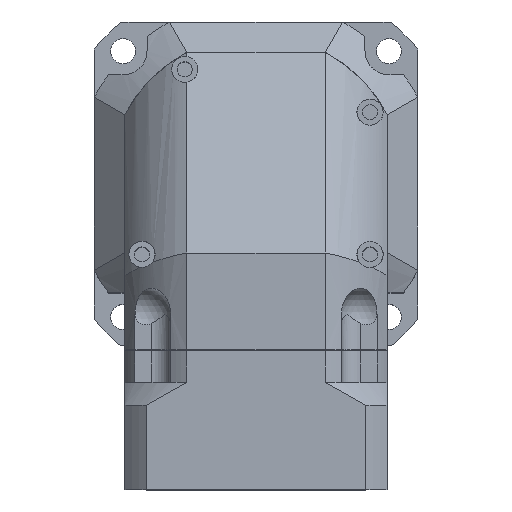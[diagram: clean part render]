
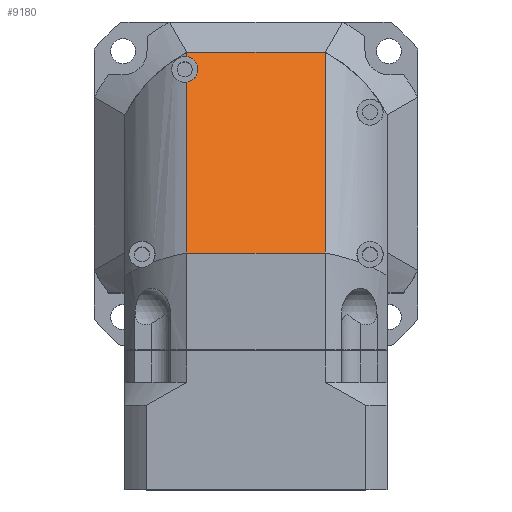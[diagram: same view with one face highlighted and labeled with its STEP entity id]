
A CAD part, top view. The second image highlights one B-rep face of the part: STEP entity #9180.
In plain terms, the highlighted planar face has unit normal (0, 0.643, 0.766) as drawn and (-0.766, -0.643, 0) by its records, which use the part's own axes.
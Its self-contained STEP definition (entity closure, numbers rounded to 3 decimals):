
#4185=DIRECTION('',(0.,0.,-1.));
#4186=VECTOR('',#4185,60.622);
#4187=CARTESIAN_POINT('',(16.5,-57.5,30.311));
#4188=LINE('',#4187,#4186);
#4545=CARTESIAN_POINT('',(16.5,-57.5,30.311));
#5266=DIRECTION('',(0.,0.,1.));
#5267=VECTOR('',#5266,60.622);
#5268=CARTESIAN_POINT('',(-57.5,30.69,-30.311));
#5269=LINE('',#5268,#5267);
#5270=CARTESIAN_POINT('',(5.478,-44.365,30.311));
#5271=CARTESIAN_POINT('',(5.528,-44.424,29.96));
#5272=CARTESIAN_POINT('',(5.627,-44.542,29.542));
#5273=CARTESIAN_POINT('',(5.825,-44.778,28.895));
#5274=CARTESIAN_POINT('',(6.073,-45.073,28.335));
#5275=CARTESIAN_POINT('',(6.37,-45.428,27.807));
#5276=CARTESIAN_POINT('',(6.767,-45.9,27.243));
#5277=CARTESIAN_POINT('',(7.262,-46.491,26.708));
#5278=CARTESIAN_POINT('',(7.857,-47.2,26.241));
#5279=CARTESIAN_POINT('',(8.452,-47.908,25.905));
#5280=CARTESIAN_POINT('',(9.245,-48.854,25.601));
#5281=CARTESIAN_POINT('',(10.236,-50.035,25.458));
#5282=CARTESIAN_POINT('',(11.227,-51.216,25.601));
#5283=CARTESIAN_POINT('',(12.02,-52.161,25.905));
#5284=CARTESIAN_POINT('',(12.615,-52.87,26.241));
#5285=CARTESIAN_POINT('',(13.21,-53.579,26.708));
#5286=CARTESIAN_POINT('',(13.705,-54.169,27.243));
#5287=CARTESIAN_POINT('',(14.102,-54.642,27.807));
#5288=CARTESIAN_POINT('',(14.399,-54.996,28.335));
#5289=CARTESIAN_POINT('',(14.647,-55.292,28.895));
#5290=CARTESIAN_POINT('',(14.845,-55.528,29.542));
#5291=CARTESIAN_POINT('',(14.944,-55.646,29.96));
#5292=CARTESIAN_POINT('',(14.994,-55.705,30.311));
#5294=DIRECTION('',(0.643,-0.766,0.));
#5295=VECTOR('',#5294,2.343);
#5296=CARTESIAN_POINT('',(14.994,-55.705,30.311));
#5297=LINE('',#5296,#5295);
#5298=DIRECTION('',(-0.643,0.766,0.));
#5299=VECTOR('',#5298,115.124);
#5300=CARTESIAN_POINT('',(16.5,-57.5,-30.311));
#5301=LINE('',#5300,#5299);
#5302=DIRECTION('',(0.643,-0.766,0.));
#5303=VECTOR('',#5302,97.977);
#5304=CARTESIAN_POINT('',(-57.5,30.69,30.311));
#5305=LINE('',#5304,#5303);
#7566=VERTEX_POINT('',#5270);
#7567=VERTEX_POINT('',#5292);
#7608=VERTEX_POINT('',#4545);
#7613=CARTESIAN_POINT('',(16.5,-57.5,-30.311));
#7614=CARTESIAN_POINT('',(-57.5,30.69,-30.311));
#7615=VERTEX_POINT('',#7613);
#7616=VERTEX_POINT('',#7614);
#7617=CARTESIAN_POINT('',(-57.5,30.69,30.311));
#7618=VERTEX_POINT('',#7617);
#9163=CARTESIAN_POINT('',(16.5,-57.5,78.));
#9164=DIRECTION('',(0.766,0.643,0.));
#9165=DIRECTION('',(-0.643,0.766,0.));
#9166=AXIS2_PLACEMENT_3D('',#9163,#9164,#9165);
#9167=PLANE('',#9166);
#9169=ORIENTED_EDGE('',*,*,#9168,.T.);
#9171=ORIENTED_EDGE('',*,*,#9170,.T.);
#9172=ORIENTED_EDGE('',*,*,#7706,.T.);
#9174=ORIENTED_EDGE('',*,*,#9173,.T.);
#9175=ORIENTED_EDGE('',*,*,#9158,.T.);
#9177=ORIENTED_EDGE('',*,*,#9176,.T.);
#9178=EDGE_LOOP('',(#9169,#9171,#9172,#9174,#9175,#9177));
#9179=FACE_OUTER_BOUND('',#9178,.F.);
#9180=ADVANCED_FACE('',(#9179),#9167,.F.);
#5293=B_SPLINE_CURVE_WITH_KNOTS('',3,(#5270,#5271,#5272,#5273,#5274,#5275,#5276,
#5277,#5278,#5279,#5280,#5281,#5282,#5283,#5284,#5285,#5286,#5287,#5288,#5289,
#5290,#5291,#5292),.UNSPECIFIED.,.F.,.F.,(4,1,1,1,1,1,1,1,1,1,1,1,1,1,1,1,1,1,1,
1,4),(0.,0.016,0.031,0.063,0.094,0.125,0.188,0.25,0.313,
0.375,0.5,0.625,0.688,0.75,0.813,0.875,0.906,0.938,
0.969,0.984,1.),.UNSPECIFIED.);
#7706=EDGE_CURVE('',#7608,#7615,#4188,.T.);
#9158=EDGE_CURVE('',#7616,#7618,#5269,.T.);
#9168=EDGE_CURVE('',#7566,#7567,#5293,.T.);
#9170=EDGE_CURVE('',#7567,#7608,#5297,.T.);
#9173=EDGE_CURVE('',#7615,#7616,#5301,.T.);
#9176=EDGE_CURVE('',#7618,#7566,#5305,.T.);
